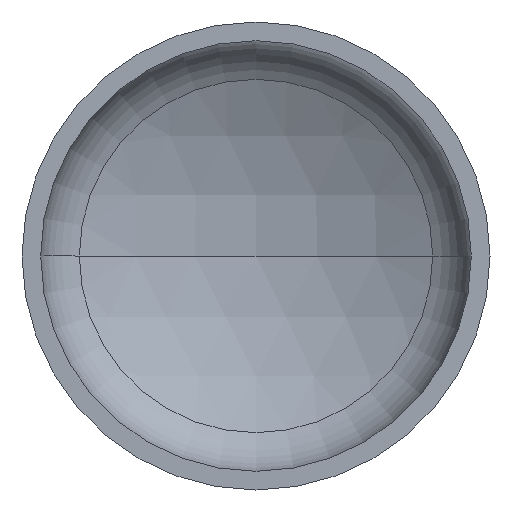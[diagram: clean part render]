
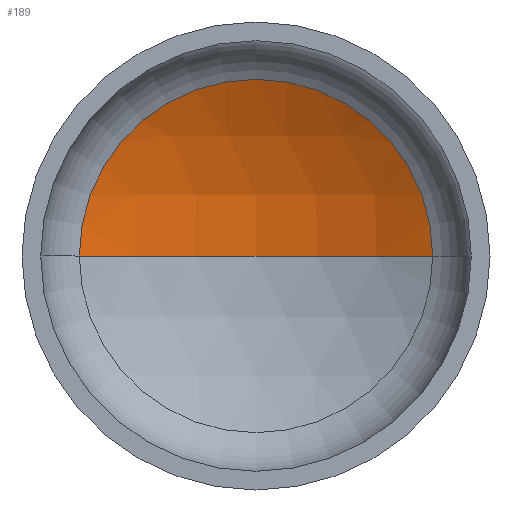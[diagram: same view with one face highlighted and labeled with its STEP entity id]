
A CAD part, front view. The second image highlights one B-rep face of the part: STEP entity #189.
In plain terms, the highlighted spherical face has radius 640 mm.
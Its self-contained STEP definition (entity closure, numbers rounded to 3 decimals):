
#3 = AXIS2_PLACEMENT_3D ( 'NONE', #145, #146, #255 ) ;
#6 = AXIS2_PLACEMENT_3D ( 'NONE', #94, #126, #139 ) ;
#14 = EDGE_LOOP ( 'NONE', ( #114, #127, #89 ) ) ;
#27 = VERTEX_POINT ( 'NONE', #246 ) ;
#55 = AXIS2_PLACEMENT_3D ( 'NONE', #214, #294, #206 ) ;
#84 = VERTEX_POINT ( 'NONE', #318 ) ;
#89 = ORIENTED_EDGE ( 'NONE', *, *, #356, .T. ) ;
#94 = CARTESIAN_POINT ( 'NONE',  ( 0., 210.21, 0. ) ) ;
#114 = ORIENTED_EDGE ( 'NONE', *, *, #403, .F. ) ;
#115 = VERTEX_POINT ( 'NONE', #352 ) ;
#126 = DIRECTION ( 'NONE',  ( 0., -1., 0. ) ) ;
#127 = ORIENTED_EDGE ( 'NONE', *, *, #358, .T. ) ;
#131 = CIRCLE ( 'NONE', #245, 640. ) ;
#139 = DIRECTION ( 'NONE',  ( 1., 0., 0. ) ) ;
#140 = CARTESIAN_POINT ( 'NONE',  ( 0., -354.066, 0. ) ) ;
#145 = CARTESIAN_POINT ( 'NONE',  ( 0., -354.066, 0. ) ) ;
#146 = DIRECTION ( 'NONE',  ( 0., 0., -1. ) ) ;
#148 = CIRCLE ( 'NONE', #6, 301.981 ) ;
#163 = DIRECTION ( 'NONE',  ( 1., 0., 0. ) ) ;
#179 = SPHERICAL_SURFACE ( 'NONE', #55, 640. ) ;
#189 = ADVANCED_FACE ( 'NONE', ( #305 ), #179, .F. ) ;
#206 = DIRECTION ( 'NONE',  ( -1., 0., 0. ) ) ;
#214 = CARTESIAN_POINT ( 'NONE',  ( 0., -354.066, 0. ) ) ;
#245 = AXIS2_PLACEMENT_3D ( 'NONE', #140, #301, #163 ) ;
#246 = CARTESIAN_POINT ( 'NONE',  ( 301.981, 210.21, 0. ) ) ;
#255 = DIRECTION ( 'NONE',  ( -1., 0., 0. ) ) ;
#294 = DIRECTION ( 'NONE',  ( 0., 0., -1. ) ) ;
#301 = DIRECTION ( 'NONE',  ( 0., 0., 1. ) ) ;
#305 = FACE_OUTER_BOUND ( 'NONE', #14, .T. ) ;
#318 = CARTESIAN_POINT ( 'NONE',  ( -301.981, 210.21, 0. ) ) ;
#331 = CIRCLE ( 'NONE', #3, 640. ) ;
#352 = CARTESIAN_POINT ( 'NONE',  ( 0., 285.934, 0. ) ) ;
#356 = EDGE_CURVE ( 'NONE', #27, #84, #148, .T. ) ;
#358 = EDGE_CURVE ( 'NONE', #115, #27, #331, .T. ) ;
#403 = EDGE_CURVE ( 'NONE', #115, #84, #131, .T. ) ;
